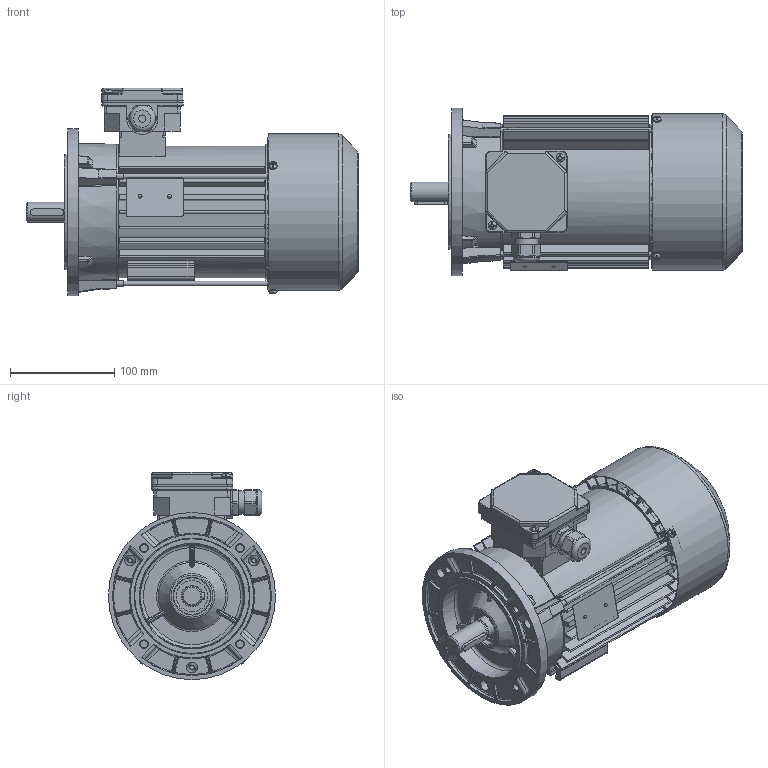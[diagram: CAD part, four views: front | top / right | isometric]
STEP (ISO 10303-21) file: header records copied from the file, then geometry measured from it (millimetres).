
FILE_DESCRIPTION(/* description */ ('Unknown'),/* implementation_level */ '2;1');
FILE_NAME(/* name */ '3SIEK80-8B1',/* time_stamp */ '2021-02-03T16:41:50+01:00',/* author */ ('Unknown'),/* organization */ ('Unknown'),/* preprocessor_version */ 'ST-DEVELOPER v16.7',/* originating_system */ 'Solid Edge',/* authorisation */ 'Unknown');
FILE_SCHEMA (('AUTOMOTIVE_DESIGN {1 0 10303 214 3 1 1}'));
Products named in the file (1): 3SIEK80-8B1
Bounding box: 317.78 x 160 x 198.5 mm (x, y, z)
Volume: 988186.7 mm3; surface area: 569699.1 mm2
Topology: 4 solids, 4 shells, 2860 faces, 7806 edges, 5010 vertices
Faces by surface type: plane 1250, cylinder 810, bspline 376, torus 218, cone 178, sphere 28
Full cylindrical faces by diameter (mm): 2 x2, 2.4 x2, 3.7 x8, 4 x4, 4.2 x3, 4.4 x3, 4.5 x1, 4.8 x2, 5 x5, 5.1 x3, 5.5 x3, 6.8 x4, 7 x1, 8 x6, 18.598 x1, 18.998 x1, 19.298 x1, 19.498 x1, 19.898 x1, 19.948 x1, 19.998 x2, 20.4 x2, 22.3 x1, 25 x1, 25.497 x1, 25.597 x1, 25.997 x4, 28.799 x4, 30 x1, 34 x1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
Entity records: 115750 total; most frequent: CARTESIAN_POINT 28941, ORIENTED_EDGE 14880, DIRECTION 13282, EDGE_CURVE 7440, AXIS2_PLACEMENT_3D 4989, VERTEX_POINT 4879, FACE_BOUND 3359, EDGE_LOOP 3356
